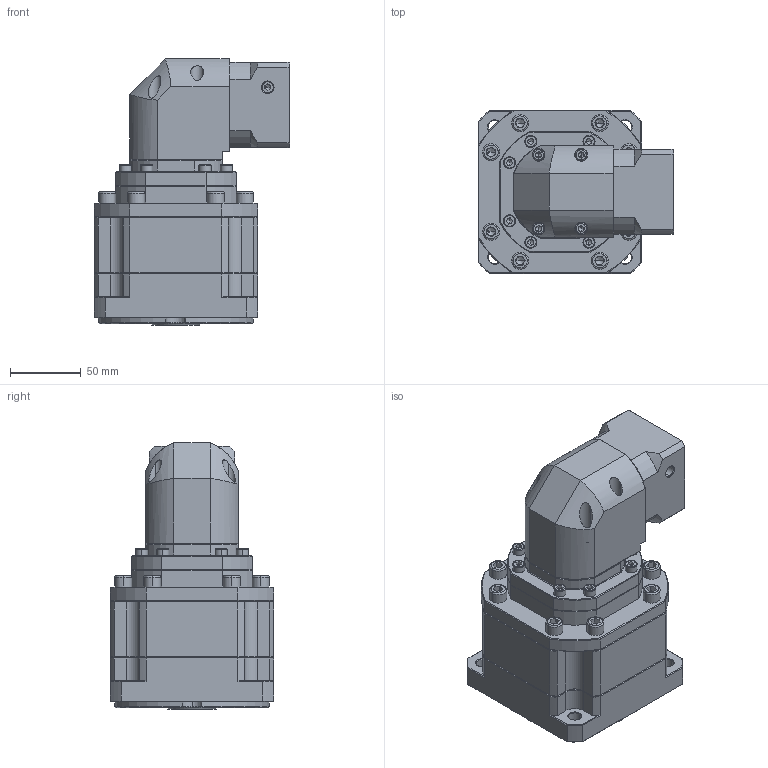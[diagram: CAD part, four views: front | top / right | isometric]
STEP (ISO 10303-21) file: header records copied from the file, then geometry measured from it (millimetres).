
FILE_DESCRIPTION (( 'STEP AP214' ), '1' );
FILE_NAME ('ZBR115A-K25-L3-P2-6.35-38.1-47.14x47.14-M4.step', '2023-08-26T14:09:18', ( '' ), ( '' ), 'SwSTEP 2.0', 'SolidWorks 2016', '' );
FILE_SCHEMA (( 'AUTOMOTIVE_DESIGN' ));
Length unit declared in the file: millimetre
Products named in the file (1): ZBR115A-K25-L3-P2-6.35-38.1-47.14x47.14-M4
Bounding box: 137.7 x 115 x 187.5 mm (x, y, z)
Volume: 1512679.8 mm3; surface area: 144149.5 mm2
Topology: 6 solids, 6 shells, 2577 faces, 6762 edges, 4306 vertices
Faces by surface type: plane 1293, bspline 446, cylinder 446, cone 384, torus 8
Entity records: 129265 total; most frequent: CARTESIAN_POINT 40812, ORIENTED_EDGE 13404, DIRECTION 10917, EDGE_CURVE 6702, VERTEX_POINT 4306, LINE 4295, VECTOR 4295, AXIS2_PLACEMENT_3D 3311
